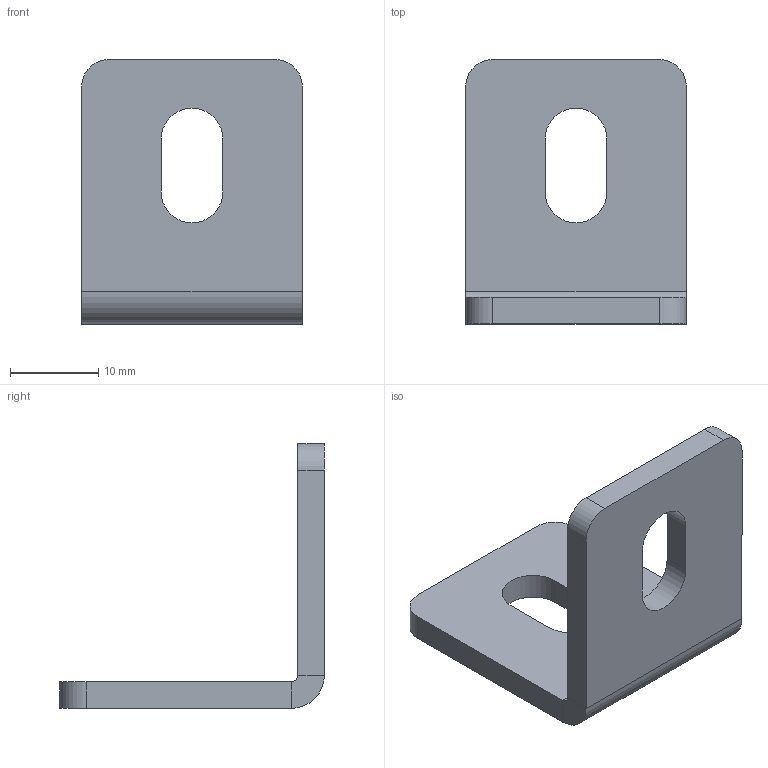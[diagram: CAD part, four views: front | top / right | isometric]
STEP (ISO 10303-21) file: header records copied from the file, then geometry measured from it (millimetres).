
FILE_DESCRIPTION (( 'STEP AP203' ), '1' );
FILE_NAME ('DSB3025-6.STEP', '2018-11-09T06:58:56', ( '' ), ( '' ), 'SwSTEP 2.0', 'SolidWorks 2012', '' );
FILE_SCHEMA (( 'CONFIG_CONTROL_DESIGN' ));
Length unit declared in the file: millimetre
Products named in the file (1): DSB3025-6
Bounding box: 25 x 30 x 30 mm (x, y, z)
Volume: 3696.9 mm3; surface area: 3139.3 mm2
Topology: 1 solids, 1 shells, 27 faces, 67 edges, 42 vertices
Faces by surface type: plane 16, cylinder 11
Entity records: 884 total; most frequent: DIRECTION 145, CARTESIAN_POINT 137, ORIENTED_EDGE 134, EDGE_CURVE 67, AXIS2_PLACEMENT_3D 50, LINE 45, VECTOR 45, VERTEX_POINT 42
